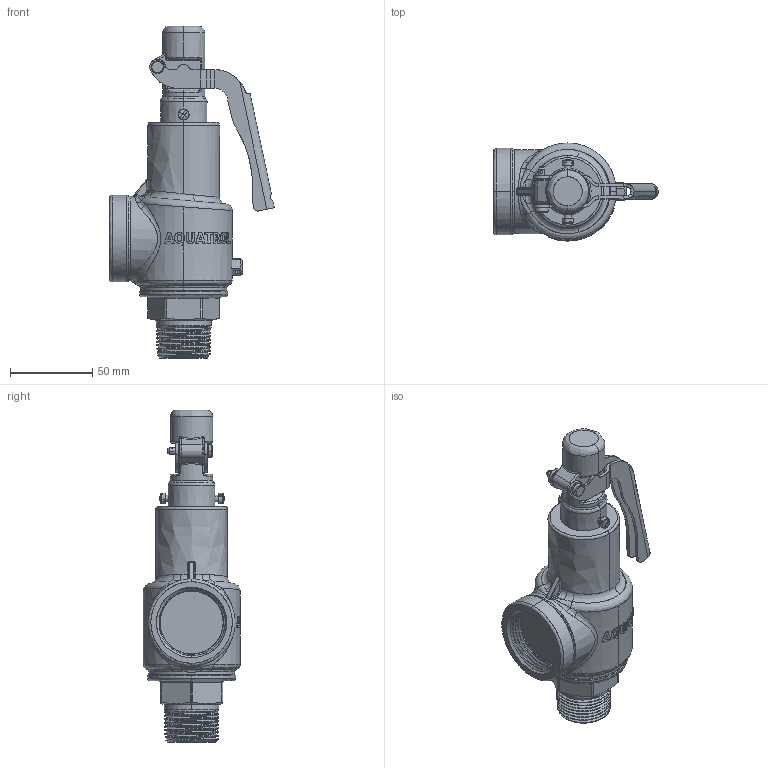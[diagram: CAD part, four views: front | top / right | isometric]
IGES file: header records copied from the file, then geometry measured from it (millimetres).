
Start section: SolidWorks IGES file using analytic representation for surfaces
Global section: file name: C:\Design\Design\Aquatrol\Customer 3D Files\Series 88 Customer Files\Series 88 1000 x 1250\Customer\Series 88 1000 x 1250.IGS; native system: SolidWorks 2015; preprocessor: SolidWorks 2015; author: Karl; date: 141208.100948; units: inch
Bounding box: 100.22 x 59.64 x 202.13 mm (x, y, z)
Surface area: 46160.6 mm2 (no closed solid volume)
Topology: 0 solids, 0 shells, 469 faces, 8369 edges, 8367 vertices
Faces by surface type: bspline 281, revolution 188
